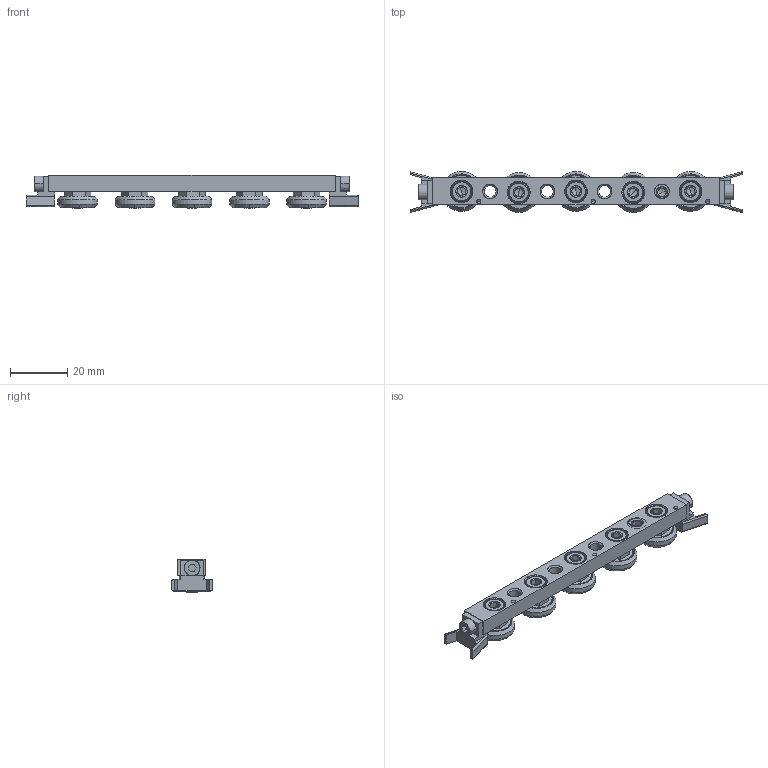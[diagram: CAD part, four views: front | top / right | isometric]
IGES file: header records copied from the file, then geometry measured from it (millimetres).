
Start section: SolidWorks IGES file using analytic representation for surfaces
Global section: file name: E:\J-00018 - L1918-L1963 LCompact Rail\L1918_v2\L1918.CSW18_v2\L1918.CSW18_IGES\L1918.CSW18-100-2RSU.igs; native system: SolidWorks 2017; preprocessor: SolidWorks 2017; author: liam_; date: 190629.230631; units: millimetre
Bounding box: 116 x 14.32 x 11.54 mm (x, y, z)
Surface area: 8973.4 mm2 (no closed solid volume)
Topology: 0 solids, 0 shells, 513 faces, 6670 edges, 6636 vertices
Faces by surface type: bspline 277, revolution 236
